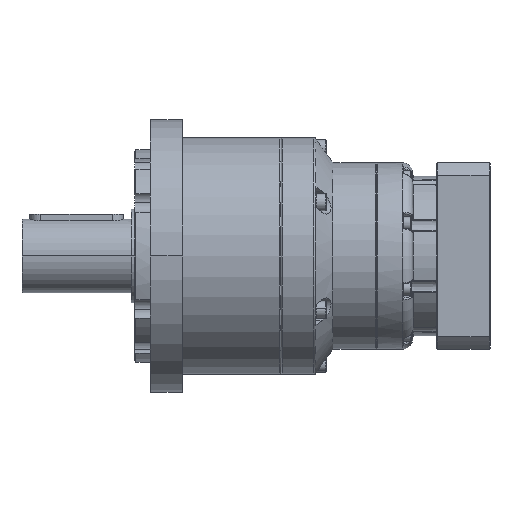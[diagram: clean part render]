
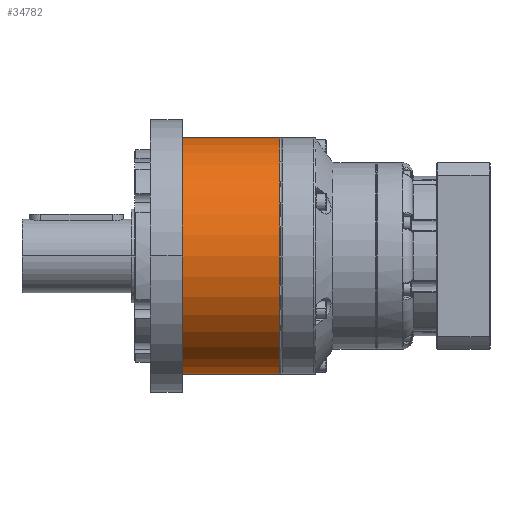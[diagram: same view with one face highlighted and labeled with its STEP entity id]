
A CAD part, front view. The second image highlights one B-rep face of the part: STEP entity #34782.
In plain terms, the highlighted cylindrical face has radius 89 mm (diameter 178 mm), a partial arc.
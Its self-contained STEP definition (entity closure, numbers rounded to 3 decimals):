
#6902 = CARTESIAN_POINT ( 'NONE',  ( 0., 77., -89. ) ) ;
#6920 = CARTESIAN_POINT ( 'NONE',  ( 0., 77., 89. ) ) ;
#9525 = VERTEX_POINT ( 'NONE', #6920 ) ;
#9557 = VERTEX_POINT ( 'NONE', #6902 ) ;
#27427 = CARTESIAN_POINT ( 'NONE',  ( 0., 87.709, -89. ) ) ;
#27428 = LINE ( 'NONE', #27427, #27473 ) ;
#27470 = CARTESIAN_POINT ( 'NONE',  ( 0., 1., 89. ) ) ;
#27472 = DIRECTION ( 'NONE',  ( 0., 1., 0. ) ) ;
#27473 = VECTOR ( 'NONE', #27472, 1000. ) ;
#27487 = CARTESIAN_POINT ( 'NONE',  ( 0., 1., -89. ) ) ;
#27570 = DIRECTION ( 'NONE',  ( 0., 1., 0. ) ) ;
#27571 = VECTOR ( 'NONE', #27570, 1000. ) ;
#27575 = CARTESIAN_POINT ( 'NONE',  ( 0., 87.709, 89. ) ) ;
#27577 = LINE ( 'NONE', #27575, #27571 ) ;
#27598 = CYLINDRICAL_SURFACE ( 'NONE', #27641, 89. ) ;
#27612 = CARTESIAN_POINT ( 'NONE',  ( 0., 87.709, 0. ) ) ;
#27633 = DIRECTION ( 'NONE',  ( 0., 0., 1. ) ) ;
#27634 = AXIS2_PLACEMENT_3D ( 'NONE', #27639, #27646, #27633 ) ;
#27638 = DIRECTION ( 'NONE',  ( 0., 0., 1. ) ) ;
#27639 = CARTESIAN_POINT ( 'NONE',  ( 0., 1., 0. ) ) ;
#27641 = AXIS2_PLACEMENT_3D ( 'NONE', #27612, #27642, #27638 ) ;
#27642 = DIRECTION ( 'NONE',  ( 0., 1., 0. ) ) ;
#27646 = DIRECTION ( 'NONE',  ( 0., 1., 0. ) ) ;
#27648 = CIRCLE ( 'NONE', #27634, 89. ) ;
#27653 = FACE_OUTER_BOUND ( 'NONE', #34730, .T. ) ;
#27676 = DIRECTION ( 'NONE',  ( 0., 0., -1. ) ) ;
#27677 = DIRECTION ( 'NONE',  ( 0., -1., 0. ) ) ;
#27678 = CARTESIAN_POINT ( 'NONE',  ( 0., 77., 0. ) ) ;
#27679 = AXIS2_PLACEMENT_3D ( 'NONE', #27678, #27677, #27676 ) ;
#27680 = CIRCLE ( 'NONE', #27679, 89. ) ;
#34691 = VERTEX_POINT ( 'NONE', #27487 ) ;
#34695 = EDGE_CURVE ( 'NONE', #34691, #9557, #27428, .T. ) ;
#34698 = VERTEX_POINT ( 'NONE', #27470 ) ;
#34730 = EDGE_LOOP ( 'NONE', ( #34780, #34787, #34804, #34766 ) ) ;
#34756 = EDGE_CURVE ( 'NONE', #34698, #9525, #27577, .T. ) ;
#34766 = ORIENTED_EDGE ( 'NONE', *, *, #34801, .T. ) ;
#34780 = ORIENTED_EDGE ( 'NONE', *, *, #34695, .F. ) ;
#34782 = ADVANCED_FACE ( 'NONE', ( #27653 ), #27598, .T. ) ;
#34783 = EDGE_CURVE ( 'NONE', #34691, #34698, #27648, .T. ) ;
#34787 = ORIENTED_EDGE ( 'NONE', *, *, #34783, .T. ) ;
#34801 = EDGE_CURVE ( 'NONE', #9525, #9557, #27680, .T. ) ;
#34804 = ORIENTED_EDGE ( 'NONE', *, *, #34756, .T. ) ;
